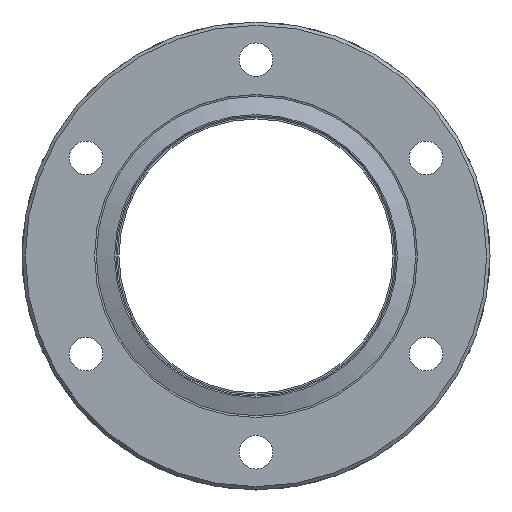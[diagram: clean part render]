
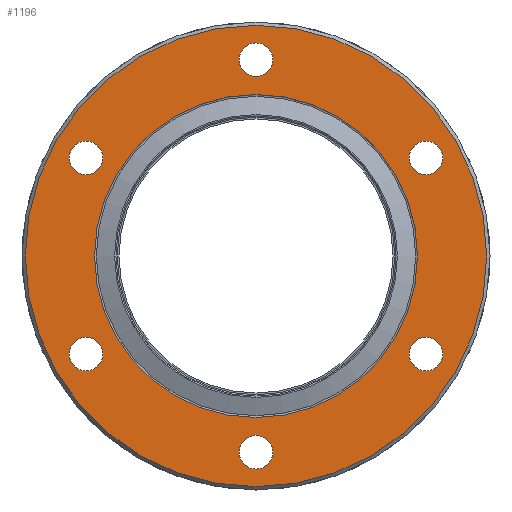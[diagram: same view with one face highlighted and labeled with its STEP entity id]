
A CAD part, front view. The second image highlights one B-rep face of the part: STEP entity #1196.
In plain terms, the highlighted planar face has unit normal (0, -1, 0).
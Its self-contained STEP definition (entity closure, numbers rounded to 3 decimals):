
#80=FACE_BOUND('',#210,.T.);
#81=FACE_BOUND('',#211,.T.);
#82=FACE_BOUND('',#212,.T.);
#83=FACE_BOUND('',#213,.T.);
#84=FACE_BOUND('',#214,.T.);
#85=FACE_BOUND('',#215,.T.);
#86=FACE_BOUND('',#216,.T.);
#94=PLANE('',#1343);
#134=FACE_OUTER_BOUND('',#209,.T.);
#209=EDGE_LOOP('',(#920));
#210=EDGE_LOOP('',(#921));
#211=EDGE_LOOP('',(#922));
#212=EDGE_LOOP('',(#923));
#213=EDGE_LOOP('',(#924));
#214=EDGE_LOOP('',(#925));
#215=EDGE_LOOP('',(#926));
#216=EDGE_LOOP('',(#927));
#412=CIRCLE('',#1295,2.518);
#414=CIRCLE('',#1298,2.518);
#416=CIRCLE('',#1301,2.518);
#418=CIRCLE('',#1304,2.518);
#420=CIRCLE('',#1307,2.518);
#422=CIRCLE('',#1310,2.518);
#443=CIRCLE('',#1344,34.5);
#444=CIRCLE('',#1345,24.15);
#522=VERTEX_POINT('',#1917);
#524=VERTEX_POINT('',#1923);
#526=VERTEX_POINT('',#1929);
#528=VERTEX_POINT('',#1935);
#530=VERTEX_POINT('',#1941);
#532=VERTEX_POINT('',#1947);
#565=VERTEX_POINT('',#2042);
#566=VERTEX_POINT('',#2044);
#650=EDGE_CURVE('',#522,#522,#412,.F.);
#653=EDGE_CURVE('',#524,#524,#414,.F.);
#656=EDGE_CURVE('',#526,#526,#416,.F.);
#659=EDGE_CURVE('',#528,#528,#418,.F.);
#662=EDGE_CURVE('',#530,#530,#420,.F.);
#665=EDGE_CURVE('',#532,#532,#422,.F.);
#705=EDGE_CURVE('',#565,#565,#443,.T.);
#706=EDGE_CURVE('',#566,#566,#444,.T.);
#920=ORIENTED_EDGE('',*,*,#705,.F.);
#921=ORIENTED_EDGE('',*,*,#706,.T.);
#922=ORIENTED_EDGE('',*,*,#650,.T.);
#923=ORIENTED_EDGE('',*,*,#653,.T.);
#924=ORIENTED_EDGE('',*,*,#656,.T.);
#925=ORIENTED_EDGE('',*,*,#659,.T.);
#926=ORIENTED_EDGE('',*,*,#662,.T.);
#927=ORIENTED_EDGE('',*,*,#665,.T.);
#1196=ADVANCED_FACE('',(#134,#80,#81,#82,#83,#84,#85,#86),#94,.F.);
#1295=AXIS2_PLACEMENT_3D('',#1919,#1519,#1520);
#1298=AXIS2_PLACEMENT_3D('',#1925,#1526,#1527);
#1301=AXIS2_PLACEMENT_3D('',#1931,#1533,#1534);
#1304=AXIS2_PLACEMENT_3D('',#1937,#1540,#1541);
#1307=AXIS2_PLACEMENT_3D('',#1943,#1547,#1548);
#1310=AXIS2_PLACEMENT_3D('',#1949,#1554,#1555);
#1343=AXIS2_PLACEMENT_3D('',#2041,#1635,#1636);
#1344=AXIS2_PLACEMENT_3D('',#2043,#1637,#1638);
#1345=AXIS2_PLACEMENT_3D('',#2045,#1639,#1640);
#1519=DIRECTION('center_axis',(0.,-1.,0.));
#1520=DIRECTION('ref_axis',(-0.866,0.,-0.5));
#1526=DIRECTION('center_axis',(0.,-1.,0.));
#1527=DIRECTION('ref_axis',(-0.866,0.,-0.5));
#1533=DIRECTION('center_axis',(0.,-1.,0.));
#1534=DIRECTION('ref_axis',(-0.866,0.,-0.5));
#1540=DIRECTION('center_axis',(0.,-1.,0.));
#1541=DIRECTION('ref_axis',(-0.866,0.,-0.5));
#1547=DIRECTION('center_axis',(0.,-1.,0.));
#1548=DIRECTION('ref_axis',(-0.866,0.,-0.5));
#1554=DIRECTION('center_axis',(0.,-1.,0.));
#1555=DIRECTION('ref_axis',(-0.866,0.,-0.5));
#1635=DIRECTION('center_axis',(0.,1.,0.));
#1636=DIRECTION('ref_axis',(-0.5,0.,0.866));
#1637=DIRECTION('center_axis',(0.,1.,0.));
#1638=DIRECTION('ref_axis',(-0.866,0.,-0.5));
#1639=DIRECTION('center_axis',(0.,1.,0.));
#1640=DIRECTION('ref_axis',(1.,0.,0.));
#1917=CARTESIAN_POINT('',(-23.238,0.,-13.416));
#1919=CARTESIAN_POINT('Origin',(-25.418,0.,
-14.675));
#1923=CARTESIAN_POINT('',(2.18,0.,30.609));
#1925=CARTESIAN_POINT('Origin',(0.,0.,
29.35));
#1929=CARTESIAN_POINT('',(27.598,0.,15.934));
#1931=CARTESIAN_POINT('Origin',(25.418,0.,14.675));
#1935=CARTESIAN_POINT('',(2.18,0.,-28.091));
#1937=CARTESIAN_POINT('Origin',(0.,0.,
-29.35));
#1941=CARTESIAN_POINT('',(-23.238,0.,15.934));
#1943=CARTESIAN_POINT('Origin',(-25.418,0.,
14.675));
#1947=CARTESIAN_POINT('',(27.598,0.,-13.416));
#1949=CARTESIAN_POINT('Origin',(25.418,0.,-14.675));
#2041=CARTESIAN_POINT('Origin',(30.138,0.,17.4));
#2042=CARTESIAN_POINT('',(29.878,0.,17.25));
#2043=CARTESIAN_POINT('Origin',(0.,0.,
0.));
#2044=CARTESIAN_POINT('',(-24.15,0.,0.));
#2045=CARTESIAN_POINT('Origin',(0.,0.,
0.));
